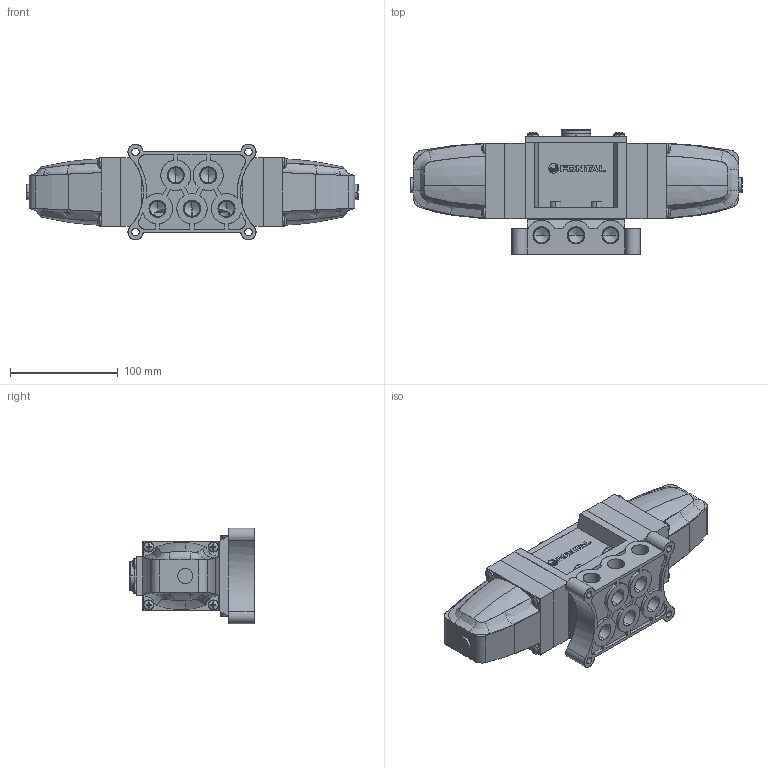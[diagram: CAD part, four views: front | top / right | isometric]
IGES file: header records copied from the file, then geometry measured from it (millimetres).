
Start section: SolidWorks IGES file using analytic representation for surfaces
Global section: file name: D:\Custom\3D繪製\A\A10\AD3410-03-##.IGS,1; native system: 5HSolidWorks 2014; preprocessor: SolidWorks 2014; author: Chieh_Lu; date: 151223.134829; units: millimetre
Bounding box: 308 x 115.6 x 88.6 mm (x, y, z)
Surface area: 190756.5 mm2 (no closed solid volume)
Topology: 0 solids, 0 shells, 942 faces, 11032 edges, 10984 vertices
Faces by surface type: bspline 575, revolution 367
